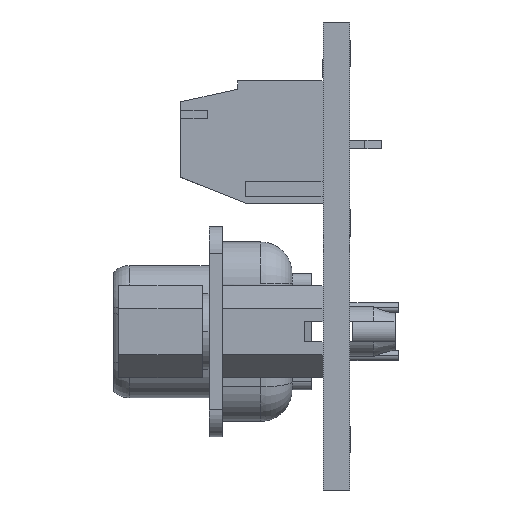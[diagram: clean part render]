
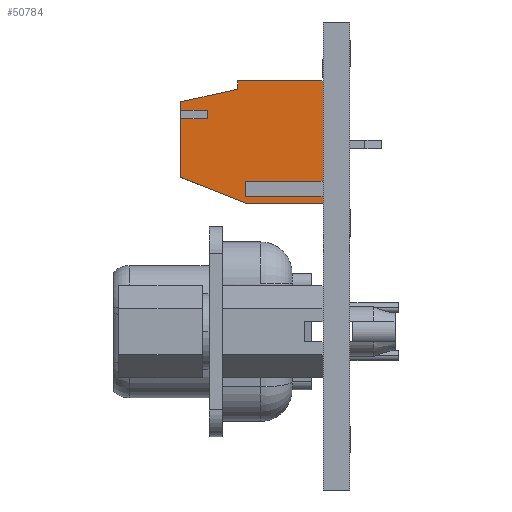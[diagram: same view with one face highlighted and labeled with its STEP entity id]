
A CAD part, left-side view. The second image highlights one B-rep face of the part: STEP entity #50784.
In plain terms, the highlighted planar face has unit normal (-1, 0, 0) as drawn and (0, -1, 0) by its records, which use the part's own axes.
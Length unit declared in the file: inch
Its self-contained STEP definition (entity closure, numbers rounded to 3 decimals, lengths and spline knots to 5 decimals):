
#1175 = EDGE_CURVE ( 'NONE', #16157, #17186, #49734, .T. ) ;
#1632 = DIRECTION ( 'NONE',  ( 0., 0., -1. ) ) ;
#2227 = ORIENTED_EDGE ( 'NONE', *, *, #46494, .F. ) ;
#2348 = CARTESIAN_POINT ( 'NONE',  ( 0., -0.41339, -0.1811 ) ) ;
#2401 = VERTEX_POINT ( 'NONE', #24492 ) ;
#3031 = LINE ( 'NONE', #37596, #20745 ) ;
#3577 = LINE ( 'NONE', #28783, #20550 ) ;
#3943 = CARTESIAN_POINT ( 'NONE',  ( -0.04331, -0.41339, 0. ) ) ;
#5510 = LINE ( 'NONE', #29260, #43077 ) ;
#6180 = DIRECTION ( 'NONE',  ( 1., 0., 0. ) ) ;
#6739 = CARTESIAN_POINT ( 'NONE',  ( -0.2185, -0.41339, -0.27165 ) ) ;
#7681 = ORIENTED_EDGE ( 'NONE', *, *, #47176, .T. ) ;
#8156 = LINE ( 'NONE', #6739, #20192 ) ;
#8956 = CARTESIAN_POINT ( 'NONE',  ( -0.02362, -0.41339, -0.1811 ) ) ;
#9941 = DIRECTION ( 'NONE',  ( 0., 1., 0. ) ) ;
#10612 = EDGE_CURVE ( 'NONE', #19912, #45561, #8156, .T. ) ;
#10900 = CARTESIAN_POINT ( 'NONE',  ( -0.2874, -0.41339, -0.20079 ) ) ;
#12293 = DIRECTION ( 'NONE',  ( 1., 0., 0. ) ) ;
#12622 = ORIENTED_EDGE ( 'NONE', *, *, #47395, .F. ) ;
#12990 = VECTOR ( 'NONE', #23684, 39.37008 ) ;
#13256 = CARTESIAN_POINT ( 'NONE',  ( 0., -0.41339, -0.1811 ) ) ;
#14733 = VERTEX_POINT ( 'NONE', #16386 ) ;
#15146 = LINE ( 'NONE', #18594, #12990 ) ;
#15231 = CARTESIAN_POINT ( 'NONE',  ( 0., -0.41339, -0.1811 ) ) ;
#15381 = DIRECTION ( 'NONE',  ( 0., 0., 1. ) ) ;
#15526 = DIRECTION ( 'NONE',  ( -1., 0., 0. ) ) ;
#15837 = VERTEX_POINT ( 'NONE', #10900 ) ;
#15965 = CARTESIAN_POINT ( 'NONE',  ( -0.04331, -0.41339, -0.1811 ) ) ;
#16157 = VERTEX_POINT ( 'NONE', #27339 ) ;
#16228 = VERTEX_POINT ( 'NONE', #49973 ) ;
#16386 = CARTESIAN_POINT ( 'NONE',  ( -0.2874, -0.41339, 0. ) ) ;
#16472 = CARTESIAN_POINT ( 'NONE',  ( -0.04331, -0.41339, 0. ) ) ;
#17079 = LINE ( 'NONE', #33369, #33438 ) ;
#17186 = VERTEX_POINT ( 'NONE', #8956 ) ;
#18594 = CARTESIAN_POINT ( 'NONE',  ( -0.23819, -0.41339, -0.33465 ) ) ;
#19097 = ORIENTED_EDGE ( 'NONE', *, *, #42196, .T. ) ;
#19592 = EDGE_CURVE ( 'NONE', #27785, #45561, #3031, .T. ) ;
#19912 = VERTEX_POINT ( 'NONE', #32603 ) ;
#20192 = VECTOR ( 'NONE', #6180, 39.37008 ) ;
#20550 = VECTOR ( 'NONE', #1632, 39.37008 ) ;
#20597 = AXIS2_PLACEMENT_3D ( 'NONE', #23212, #9941, #41868 ) ;
#20745 = VECTOR ( 'NONE', #46766, 39.37008 ) ;
#20966 = CARTESIAN_POINT ( 'NONE',  ( -0.19882, -0.41339, -0.33465 ) ) ;
#21785 = DIRECTION ( 'NONE',  ( 0., 0., 1. ) ) ;
#22185 = EDGE_CURVE ( 'NONE', #37129, #22723, #50160, .T. ) ;
#22409 = CARTESIAN_POINT ( 'NONE',  ( -0.19882, -0.41339, -0.33465 ) ) ;
#22723 = VERTEX_POINT ( 'NONE', #16472 ) ;
#23023 = VECTOR ( 'NONE', #52122, 39.37008 ) ;
#23036 = CARTESIAN_POINT ( 'NONE',  ( -0.04331, -0.41339, -0.1811 ) ) ;
#23212 = CARTESIAN_POINT ( 'NONE',  ( -0.1437, -0.41339, -0.16732 ) ) ;
#23684 = DIRECTION ( 'NONE',  ( 1., 0., 0. ) ) ;
#24113 = VECTOR ( 'NONE', #31627, 39.37008 ) ;
#24492 = CARTESIAN_POINT ( 'NONE',  ( -0.2185, -0.41339, -0.33465 ) ) ;
#25161 = VERTEX_POINT ( 'NONE', #15231 ) ;
#25819 = EDGE_CURVE ( 'NONE', #46224, #16157, #17079, .T. ) ;
#26807 = VECTOR ( 'NONE', #15381, 39.37008 ) ;
#27001 = LINE ( 'NONE', #22409, #48292 ) ;
#27339 = CARTESIAN_POINT ( 'NONE',  ( -0.02362, -0.41339, 0. ) ) ;
#27785 = VERTEX_POINT ( 'NONE', #20966 ) ;
#28047 = EDGE_CURVE ( 'NONE', #39408, #2401, #15146, .T. ) ;
#28635 = ORIENTED_EDGE ( 'NONE', *, *, #30464, .T. ) ;
#28783 = CARTESIAN_POINT ( 'NONE',  ( -0.2185, -0.41339, -0.27165 ) ) ;
#28812 = LINE ( 'NONE', #41290, #54342 ) ;
#28878 = VECTOR ( 'NONE', #40586, 39.37008 ) ;
#29127 = EDGE_CURVE ( 'NONE', #19912, #2401, #3577, .T. ) ;
#29144 = ORIENTED_EDGE ( 'NONE', *, *, #54255, .T. ) ;
#29260 = CARTESIAN_POINT ( 'NONE',  ( -0.04331, -0.41339, -0.1811 ) ) ;
#30464 = EDGE_CURVE ( 'NONE', #27785, #16228, #27001, .T. ) ;
#31561 = ORIENTED_EDGE ( 'NONE', *, *, #50809, .T. ) ;
#31627 = DIRECTION ( 'NONE',  ( 0., 0., -1. ) ) ;
#32603 = CARTESIAN_POINT ( 'NONE',  ( -0.2185, -0.41339, -0.27165 ) ) ;
#33369 = CARTESIAN_POINT ( 'NONE',  ( 0., -0.41339, 0. ) ) ;
#33438 = VECTOR ( 'NONE', #15526, 39.37008 ) ;
#33947 = CARTESIAN_POINT ( 'NONE',  ( -0.23819, -0.41339, -0.33465 ) ) ;
#35240 = CARTESIAN_POINT ( 'NONE',  ( -0.26772, -0.41339, -0.20079 ) ) ;
#35613 = ORIENTED_EDGE ( 'NONE', *, *, #10612, .T. ) ;
#37129 = VERTEX_POINT ( 'NONE', #23036 ) ;
#37596 = CARTESIAN_POINT ( 'NONE',  ( -0.19882, -0.41339, -0.33465 ) ) ;
#38549 = DIRECTION ( 'NONE',  ( 1., 0., 0. ) ) ;
#38861 = CARTESIAN_POINT ( 'NONE',  ( -0.19882, -0.41339, -0.27165 ) ) ;
#39408 = VERTEX_POINT ( 'NONE', #33947 ) ;
#40447 = VERTEX_POINT ( 'NONE', #35240 ) ;
#40586 = DIRECTION ( 'NONE',  ( -1., 0., 0. ) ) ;
#41290 = CARTESIAN_POINT ( 'NONE',  ( -0.23819, -0.41339, -0.33465 ) ) ;
#41678 = DIRECTION ( 'NONE',  ( 0., 0., -1. ) ) ;
#41868 = DIRECTION ( 'NONE',  ( 1., 0., 0. ) ) ;
#42196 = EDGE_CURVE ( 'NONE', #22723, #14733, #44438, .T. ) ;
#43077 = VECTOR ( 'NONE', #38549, 39.37008 ) ;
#43435 = CARTESIAN_POINT ( 'NONE',  ( -0.2874, -0.41339, -0.20079 ) ) ;
#43844 = ORIENTED_EDGE ( 'NONE', *, *, #22185, .T. ) ;
#44374 = VECTOR ( 'NONE', #21785, 39.37008 ) ;
#44438 = LINE ( 'NONE', #3943, #28878 ) ;
#44745 = CARTESIAN_POINT ( 'NONE',  ( 0., -0.41339, 0. ) ) ;
#45561 = VERTEX_POINT ( 'NONE', #38861 ) ;
#46224 = VERTEX_POINT ( 'NONE', #44745 ) ;
#46294 = EDGE_LOOP ( 'NONE', ( #43844, #19097, #31561, #29144, #50200, #56053, #53557, #35613, #49781, #28635, #12622, #7681, #49993, #58187, #2227 ) ) ;
#46494 = EDGE_CURVE ( 'NONE', #37129, #17186, #5510, .T. ) ;
#46551 = LINE ( 'NONE', #13256, #44374 ) ;
#46766 = DIRECTION ( 'NONE',  ( 0., 0., 1. ) ) ;
#46921 = EDGE_CURVE ( 'NONE', #39408, #40447, #28812, .T. ) ;
#47176 = EDGE_CURVE ( 'NONE', #25161, #46224, #46551, .T. ) ;
#47395 = EDGE_CURVE ( 'NONE', #25161, #16228, #52152, .T. ) ;
#48292 = VECTOR ( 'NONE', #50413, 39.37008 ) ;
#49220 = FACE_OUTER_BOUND ( 'NONE', #46294, .T. ) ;
#49263 = PLANE ( 'NONE',  #20597 ) ;
#49734 = LINE ( 'NONE', #50297, #24113 ) ;
#49781 = ORIENTED_EDGE ( 'NONE', *, *, #19592, .F. ) ;
#49973 = CARTESIAN_POINT ( 'NONE',  ( -0.06102, -0.41339, -0.33465 ) ) ;
#49993 = ORIENTED_EDGE ( 'NONE', *, *, #25819, .T. ) ;
#50160 = LINE ( 'NONE', #15965, #26807 ) ;
#50200 = ORIENTED_EDGE ( 'NONE', *, *, #46921, .F. ) ;
#50297 = CARTESIAN_POINT ( 'NONE',  ( -0.02362, -0.41339, 0. ) ) ;
#50413 = DIRECTION ( 'NONE',  ( 1., 0., 0. ) ) ;
#50784 = ADVANCED_FACE ( 'NONE', ( #49220 ), #49263, .F. ) ;
#50809 = EDGE_CURVE ( 'NONE', #14733, #15837, #52007, .T. ) ;
#51023 = CARTESIAN_POINT ( 'NONE',  ( -0.2874, -0.41339, 0. ) ) ;
#51330 = VECTOR ( 'NONE', #41678, 39.37008 ) ;
#51409 = LINE ( 'NONE', #43435, #53561 ) ;
#52007 = LINE ( 'NONE', #51023, #51330 ) ;
#52122 = DIRECTION ( 'NONE',  ( -0.369, 0., -0.929 ) ) ;
#52152 = LINE ( 'NONE', #2348, #23023 ) ;
#53557 = ORIENTED_EDGE ( 'NONE', *, *, #29127, .F. ) ;
#53561 = VECTOR ( 'NONE', #12293, 39.37008 ) ;
#54255 = EDGE_CURVE ( 'NONE', #15837, #40447, #51409, .T. ) ;
#54342 = VECTOR ( 'NONE', #55149, 39.37008 ) ;
#55149 = DIRECTION ( 'NONE',  ( -0.215, 0., 0.977 ) ) ;
#56053 = ORIENTED_EDGE ( 'NONE', *, *, #28047, .T. ) ;
#58187 = ORIENTED_EDGE ( 'NONE', *, *, #1175, .T. ) ;
